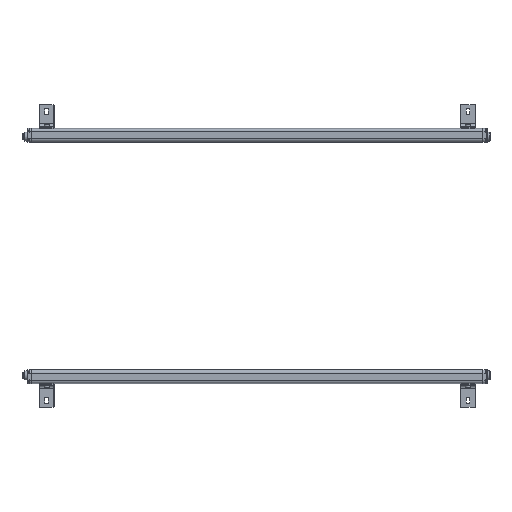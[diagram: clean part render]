
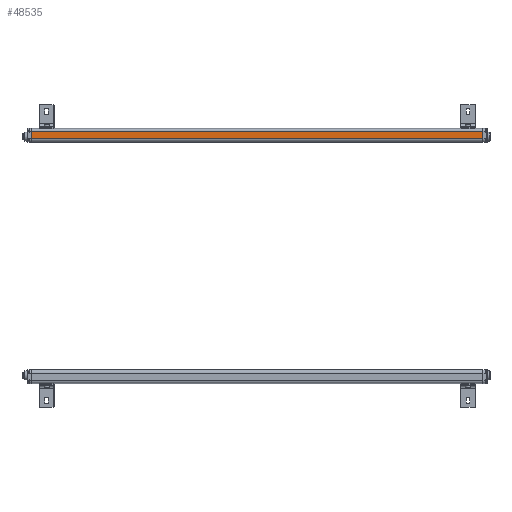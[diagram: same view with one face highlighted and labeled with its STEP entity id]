
A CAD part, left-side view. The second image highlights one B-rep face of the part: STEP entity #48535.
In plain terms, the highlighted planar face has unit normal (-1, 0, 0).
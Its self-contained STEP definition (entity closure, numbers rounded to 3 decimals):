
#4697 = CARTESIAN_POINT ( 'NONE',  ( -17.35, 0., 0. ) ) ;
#10189 = DIRECTION ( 'NONE',  ( 0., -1., 0. ) ) ;
#12750 = EDGE_CURVE ( 'NONE', #90830, #101385, #140416, .T. ) ;
#17466 = VECTOR ( 'NONE', #92369, 1000. ) ;
#28447 = CARTESIAN_POINT ( 'NONE',  ( -17.35, 885., 8.225 ) ) ;
#31011 = CARTESIAN_POINT ( 'NONE',  ( -17.35, 0., -6.175 ) ) ;
#32446 = LINE ( 'NONE', #43596, #117267 ) ;
#33074 = FACE_OUTER_BOUND ( 'NONE', #94526, .T. ) ;
#42509 = VERTEX_POINT ( 'NONE', #97119 ) ;
#43596 = CARTESIAN_POINT ( 'NONE',  ( -17.35, 0., 8.225 ) ) ;
#46115 = EDGE_CURVE ( 'NONE', #90830, #122917, #131950, .T. ) ;
#48269 = EDGE_CURVE ( 'NONE', #122917, #42509, #62525, .T. ) ;
#48535 = ADVANCED_FACE ( 'NONE', ( #33074 ), #85495, .T. ) ;
#48799 = CARTESIAN_POINT ( 'NONE',  ( -17.35, 885., 0. ) ) ;
#49316 = ORIENTED_EDGE ( 'NONE', *, *, #111509, .F. ) ;
#55856 = ORIENTED_EDGE ( 'NONE', *, *, #48269, .T. ) ;
#56663 = ORIENTED_EDGE ( 'NONE', *, *, #46115, .T. ) ;
#62525 = LINE ( 'NONE', #4697, #133483 ) ;
#62765 = CARTESIAN_POINT ( 'NONE',  ( -17.35, 0., -6.175 ) ) ;
#85495 = PLANE ( 'NONE',  #124062 ) ;
#90830 = VERTEX_POINT ( 'NONE', #124094 ) ;
#92369 = DIRECTION ( 'NONE',  ( 0., 0., 1. ) ) ;
#94526 = EDGE_LOOP ( 'NONE', ( #56663, #55856, #49316, #121494 ) ) ;
#97119 = CARTESIAN_POINT ( 'NONE',  ( -17.35, 0., 8.225 ) ) ;
#101385 = VERTEX_POINT ( 'NONE', #28447 ) ;
#104184 = VECTOR ( 'NONE', #109328, 1000. ) ;
#107267 = DIRECTION ( 'NONE',  ( 0., 0., 1. ) ) ;
#107901 = CARTESIAN_POINT ( 'NONE',  ( -17.35, 0., -6.175 ) ) ;
#109328 = DIRECTION ( 'NONE',  ( 0., -1., 0. ) ) ;
#111509 = EDGE_CURVE ( 'NONE', #101385, #42509, #32446, .T. ) ;
#116007 = DIRECTION ( 'NONE',  ( 0., 0., 1. ) ) ;
#116932 = DIRECTION ( 'NONE',  ( -1., 0., 0. ) ) ;
#117267 = VECTOR ( 'NONE', #10189, 1000. ) ;
#121494 = ORIENTED_EDGE ( 'NONE', *, *, #12750, .F. ) ;
#122917 = VERTEX_POINT ( 'NONE', #31011 ) ;
#124062 = AXIS2_PLACEMENT_3D ( 'NONE', #62765, #116932, #107267 ) ;
#124094 = CARTESIAN_POINT ( 'NONE',  ( -17.35, 885., -6.175 ) ) ;
#131950 = LINE ( 'NONE', #107901, #104184 ) ;
#133483 = VECTOR ( 'NONE', #116007, 1000. ) ;
#140416 = LINE ( 'NONE', #48799, #17466 ) ;
